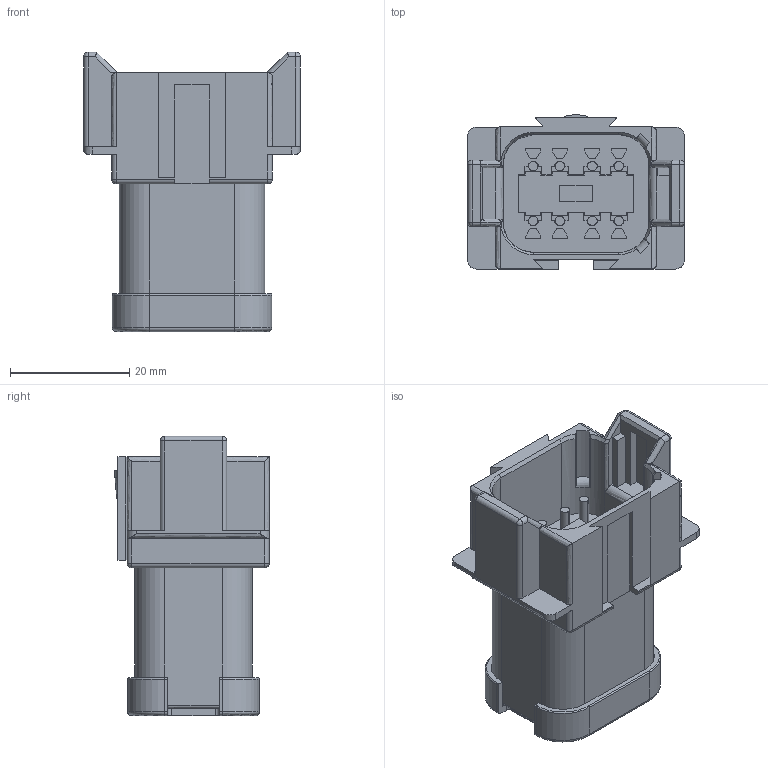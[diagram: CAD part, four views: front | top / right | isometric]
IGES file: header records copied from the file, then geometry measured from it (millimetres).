
Start section:  PTC IGES file: c-dt04-08pb-p026-99-3d.igs
Global section: file name: c-dt04-08pb-p026-99-3d.igs; native system: Pro/ENGINEER by Parametric Technology Corporation; preprocessor: 2011490; author: workeradm; organization: Unknown; units: millimetre
Bounding box: 36.45 x 25.91 x 46.94 mm (x, y, z)
Surface area: 9289.7 mm2 (no closed solid volume)
Topology: 0 solids, 0 shells, 493 faces, 2642 edges, 2642 vertices
Faces by surface type: bspline 346, revolution 147
